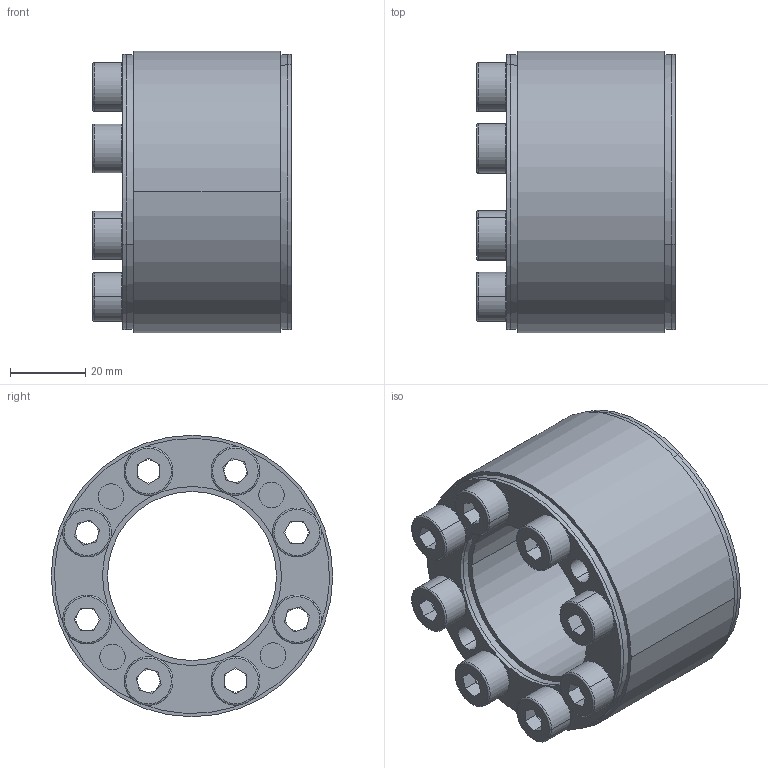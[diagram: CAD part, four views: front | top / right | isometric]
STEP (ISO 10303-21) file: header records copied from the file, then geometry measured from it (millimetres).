
FILE_DESCRIPTION (( 'STEP AP203' ), '1' );
FILE_NAME ('D4S-45-75.STEP', '2017-11-06T05:58:12', ( 'MYCOM' ), ( '' ), 'SwSTEP 2.0', 'SolidWorks 2015', '' );
FILE_SCHEMA (( 'CONFIG_CONTROL_DESIGN' ));
Length unit declared in the file: millimetre
Products named in the file (1): D4S-45-75
Bounding box: 53 x 75 x 75 mm (x, y, z)
Surface area: 42501.1 mm2 (no closed solid volume)
Topology: 0 solids, 12 shells, 212 faces, 536 edges, 330 vertices
Faces by surface type: plane 102, cylinder 68, torus 32, cone 10
Entity records: 6426 total; most frequent: DIRECTION 1228, CARTESIAN_POINT 1079, ORIENTED_EDGE 960, EDGE_CURVE 536, AXIS2_PLACEMENT_3D 479, VERTEX_POINT 330, LINE 270, VECTOR 270
